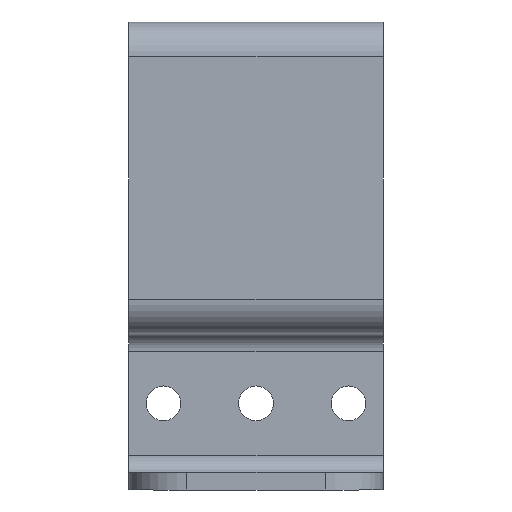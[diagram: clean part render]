
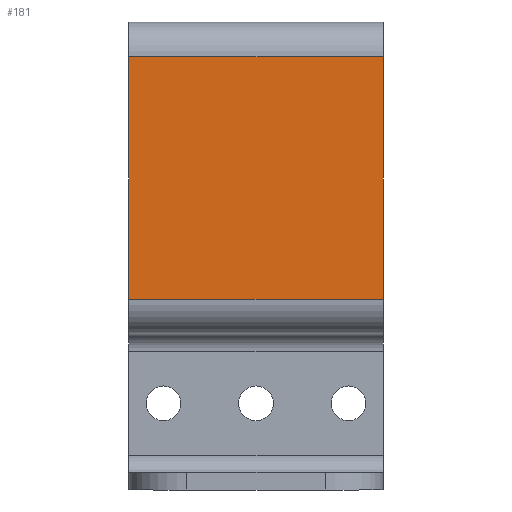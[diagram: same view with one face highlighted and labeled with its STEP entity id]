
A CAD part, front view. The second image highlights one B-rep face of the part: STEP entity #181.
In plain terms, the highlighted planar face has unit normal (0, -1, 0).
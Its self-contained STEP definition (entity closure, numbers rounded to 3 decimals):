
#4 = VERTEX_POINT ( 'NONE', #996 ) ;
#9 = EDGE_CURVE ( 'NONE', #132, #689, #273, .T. ) ;
#45 = EDGE_CURVE ( 'NONE', #4, #132, #68, .T. ) ;
#68 = LINE ( 'NONE', #792, #319 ) ;
#75 = CARTESIAN_POINT ( 'NONE',  ( 0., -39.5, 0. ) ) ;
#131 = CARTESIAN_POINT ( 'NONE',  ( -11., -39.5, 1.5 ) ) ;
#132 = VERTEX_POINT ( 'NONE', #883 ) ;
#178 = CARTESIAN_POINT ( 'NONE',  ( -11., -39.5, 22.5 ) ) ;
#181 = ADVANCED_FACE ( 'NONE', ( #1307 ), #1289, .F. ) ;
#211 = CARTESIAN_POINT ( 'NONE',  ( -11., -39.5, 1.5 ) ) ;
#221 = CARTESIAN_POINT ( 'NONE',  ( -11., -39.5, 0. ) ) ;
#238 = ORIENTED_EDGE ( 'NONE', *, *, #820, .T. ) ;
#259 = DIRECTION ( 'NONE',  ( -1., 0., 0. ) ) ;
#263 = VECTOR ( 'NONE', #926, 1000. ) ;
#273 = LINE ( 'NONE', #1080, #675 ) ;
#304 = VERTEX_POINT ( 'NONE', #131 ) ;
#319 = VECTOR ( 'NONE', #368, 1000. ) ;
#368 = DIRECTION ( 'NONE',  ( 0., 0., 1. ) ) ;
#376 = DIRECTION ( 'NONE',  ( 0., 1., 0. ) ) ;
#380 = EDGE_CURVE ( 'NONE', #4, #304, #1231, .T. ) ;
#403 = DIRECTION ( 'NONE',  ( -1., 0., 0. ) ) ;
#518 = ORIENTED_EDGE ( 'NONE', *, *, #9, .T. ) ;
#623 = EDGE_LOOP ( 'NONE', ( #518, #238, #1060, #1174 ) ) ;
#675 = VECTOR ( 'NONE', #259, 1000. ) ;
#689 = VERTEX_POINT ( 'NONE', #178 ) ;
#789 = VECTOR ( 'NONE', #403, 1000. ) ;
#792 = CARTESIAN_POINT ( 'NONE',  ( 11., -39.5, 0. ) ) ;
#820 = EDGE_CURVE ( 'NONE', #689, #304, #1229, .T. ) ;
#883 = CARTESIAN_POINT ( 'NONE',  ( 11., -39.5, 22.5 ) ) ;
#926 = DIRECTION ( 'NONE',  ( 0., 0., -1. ) ) ;
#996 = CARTESIAN_POINT ( 'NONE',  ( 11., -39.5, 1.5 ) ) ;
#1004 = AXIS2_PLACEMENT_3D ( 'NONE', #75, #376, #1205 ) ;
#1060 = ORIENTED_EDGE ( 'NONE', *, *, #380, .F. ) ;
#1080 = CARTESIAN_POINT ( 'NONE',  ( 11., -39.5, 22.5 ) ) ;
#1174 = ORIENTED_EDGE ( 'NONE', *, *, #45, .T. ) ;
#1205 = DIRECTION ( 'NONE',  ( 0., 0., 1. ) ) ;
#1229 = LINE ( 'NONE', #221, #263 ) ;
#1231 = LINE ( 'NONE', #211, #789 ) ;
#1289 = PLANE ( 'NONE',  #1004 ) ;
#1307 = FACE_OUTER_BOUND ( 'NONE', #623, .T. ) ;
